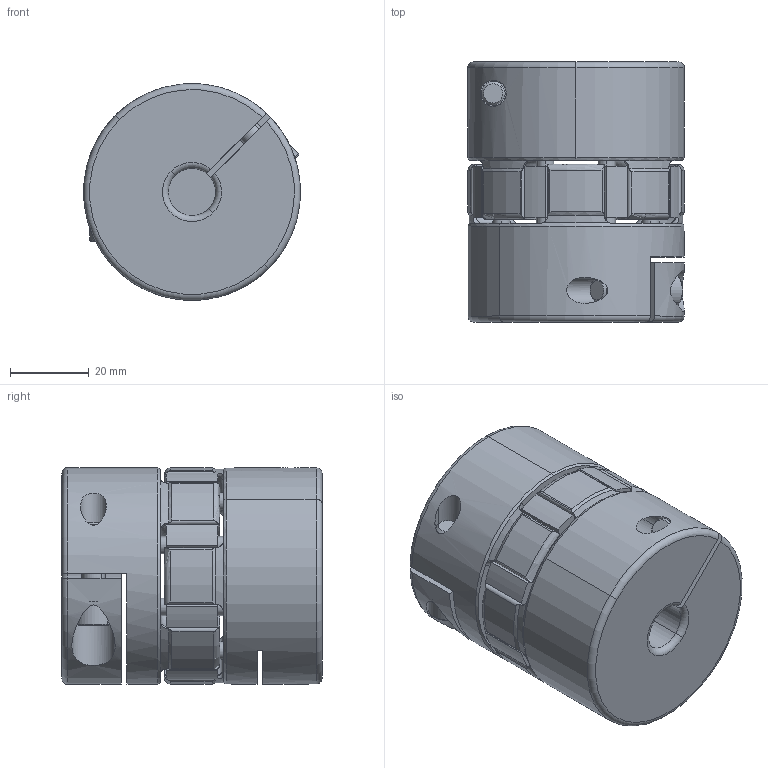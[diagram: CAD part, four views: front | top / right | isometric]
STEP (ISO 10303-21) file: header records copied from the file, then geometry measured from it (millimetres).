
FILE_DESCRIPTION (( 'STEP AP203' ), '1' );
FILE_NAME ('DXA-55X66-12-12.STEP', '2023-10-18T05:59:45', ( '' ), ( '' ), 'SwSTEP 2.0', 'SolidWorks 2020', '' );
FILE_SCHEMA (( 'CONFIG_CONTROL_DESIGN' ));
Length unit declared in the file: millimetre
Products named in the file (4): 55X66標踡倰傷窒璃; socket head cap screw_iso_ISO 4762 M6 x 20 - 20C; 55繩豪菜; DXA-55X66-12-12
Assembly tree (5 placements, depth 2):
  DXA-55X66-12-12
    55繩豪菜
    55X66標踡倰傷窒璃  x2
    socket head cap screw_iso_ISO 4762 M6 x 20 - 20C  x2
Bounding box: 55 x 66 x 55 mm (x, y, z)
Volume: 139736.8 mm3; surface area: 39193.8 mm2
Topology: 5 solids, 5 shells, 393 faces, 989 edges, 624 vertices
Faces by surface type: cylinder 191, torus 108, plane 74, cone 20
Entity records: 8167 total; most frequent: CARTESIAN_POINT 1819, DIRECTION 1361, ORIENTED_EDGE 1186, EDGE_CURVE 593, AXIS2_PLACEMENT_3D 593, VERTEX_POINT 379, CIRCLE 346, EDGE_LOOP 264
